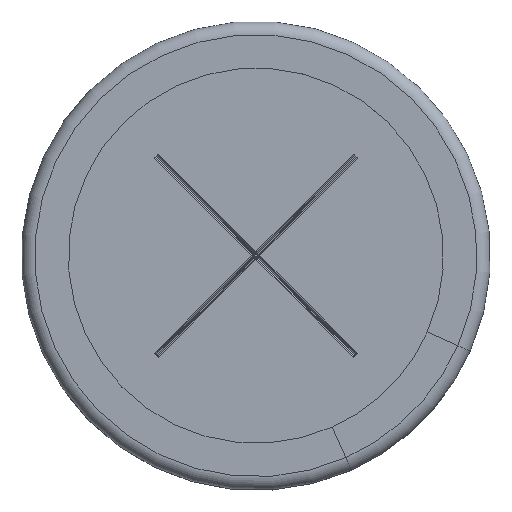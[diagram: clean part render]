
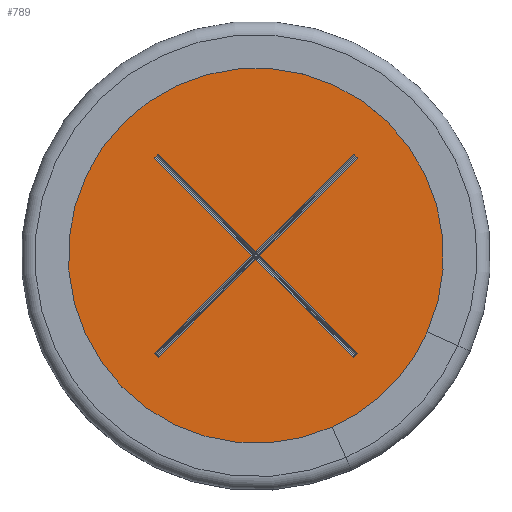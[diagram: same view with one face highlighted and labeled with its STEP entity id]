
A CAD part, top view. The second image highlights one B-rep face of the part: STEP entity #789.
In plain terms, the highlighted planar face has unit normal (0, 0, 1).
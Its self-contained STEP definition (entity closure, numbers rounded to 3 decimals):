
#174=FACE_BOUND('',#1270,.T.);
#175=FACE_BOUND('',#1271,.T.);
#673=PLANE('',#4033);
#789=ADVANCED_FACE('',(#174,#175),#673,.T.);
#1270=EDGE_LOOP('',(#2116));
#1271=EDGE_LOOP('',(#2117,#2118,#2119,#2120,#2121,#2122,#2123,#2124,#2125,
#2126,#2127,#2128));
#1503=LINE('',#5696,#1757);
#1504=LINE('',#5699,#1758);
#1505=LINE('',#5701,#1759);
#1506=LINE('',#5703,#1760);
#1507=LINE('',#5705,#1761);
#1508=LINE('',#5707,#1762);
#1509=LINE('',#5709,#1763);
#1510=LINE('',#5711,#1764);
#1511=LINE('',#5713,#1765);
#1512=LINE('',#5715,#1766);
#1513=LINE('',#5717,#1767);
#1514=LINE('',#5719,#1768);
#1757=VECTOR('',#4576,1.);
#1758=VECTOR('',#4577,1.);
#1759=VECTOR('',#4578,1.);
#1760=VECTOR('',#4579,1.);
#1761=VECTOR('',#4580,1.);
#1762=VECTOR('',#4581,1.);
#1763=VECTOR('',#4582,1.);
#1764=VECTOR('',#4583,1.);
#1765=VECTOR('',#4584,1.);
#1766=VECTOR('',#4585,1.);
#1767=VECTOR('',#4586,1.);
#1768=VECTOR('',#4587,1.);
#2116=ORIENTED_EDGE('',*,*,#3354,.F.);
#2117=ORIENTED_EDGE('',*,*,#3355,.T.);
#2118=ORIENTED_EDGE('',*,*,#3356,.T.);
#2119=ORIENTED_EDGE('',*,*,#3357,.T.);
#2120=ORIENTED_EDGE('',*,*,#3358,.F.);
#2121=ORIENTED_EDGE('',*,*,#3359,.T.);
#2122=ORIENTED_EDGE('',*,*,#3360,.T.);
#2123=ORIENTED_EDGE('',*,*,#3361,.F.);
#2124=ORIENTED_EDGE('',*,*,#3362,.T.);
#2125=ORIENTED_EDGE('',*,*,#3363,.T.);
#2126=ORIENTED_EDGE('',*,*,#3364,.T.);
#2127=ORIENTED_EDGE('',*,*,#3365,.T.);
#2128=ORIENTED_EDGE('',*,*,#3366,.T.);
#3024=VERTEX_POINT('',#5695);
#3025=VERTEX_POINT('',#5697);
#3026=VERTEX_POINT('',#5698);
#3027=VERTEX_POINT('',#5700);
#3028=VERTEX_POINT('',#5702);
#3029=VERTEX_POINT('',#5704);
#3030=VERTEX_POINT('',#5706);
#3031=VERTEX_POINT('',#5708);
#3032=VERTEX_POINT('',#5710);
#3033=VERTEX_POINT('',#5712);
#3034=VERTEX_POINT('',#5714);
#3035=VERTEX_POINT('',#5716);
#3036=VERTEX_POINT('',#5718);
#3354=EDGE_CURVE('',#3024,#3024,#3812,.T.);
#3355=EDGE_CURVE('',#3025,#3026,#1503,.T.);
#3356=EDGE_CURVE('',#3026,#3027,#1504,.T.);
#3357=EDGE_CURVE('',#3027,#3028,#1505,.T.);
#3358=EDGE_CURVE('',#3029,#3028,#1506,.T.);
#3359=EDGE_CURVE('',#3029,#3030,#1507,.T.);
#3360=EDGE_CURVE('',#3030,#3031,#1508,.T.);
#3361=EDGE_CURVE('',#3032,#3031,#1509,.T.);
#3362=EDGE_CURVE('',#3032,#3033,#1510,.T.);
#3363=EDGE_CURVE('',#3033,#3034,#1511,.T.);
#3364=EDGE_CURVE('',#3034,#3035,#1512,.T.);
#3365=EDGE_CURVE('',#3035,#3036,#1513,.T.);
#3366=EDGE_CURVE('',#3036,#3025,#1514,.T.);
#3812=CIRCLE('',#4032,16.5);
#4032=AXIS2_PLACEMENT_3D('',#5694,#4574,#4575);
#4033=AXIS2_PLACEMENT_3D('',#5720,#4588,#4589);
#4574=DIRECTION('',(0.,0.,-1.));
#4575=DIRECTION('',(-1.,0.,0.));
#4576=DIRECTION('',(0.707,-0.707,0.));
#4577=DIRECTION('',(-0.707,-0.707,0.));
#4578=DIRECTION('',(0.707,-0.707,0.));
#4579=DIRECTION('',(0.707,0.707,0.));
#4580=DIRECTION('',(-0.707,0.707,0.));
#4581=DIRECTION('',(-0.707,-0.707,0.));
#4582=DIRECTION('',(0.707,-0.707,0.));
#4583=DIRECTION('',(0.707,0.707,0.));
#4584=DIRECTION('',(-0.707,0.707,0.));
#4585=DIRECTION('',(0.707,0.707,0.));
#4586=DIRECTION('',(0.707,-0.707,0.));
#4587=DIRECTION('',(0.707,0.707,0.));
#4588=DIRECTION('',(0.,0.,1.));
#4589=DIRECTION('',(1.,0.,0.));
#5694=CARTESIAN_POINT('',(0.,0.,19.8));
#5695=CARTESIAN_POINT('',(-16.5,0.,19.8));
#5696=CARTESIAN_POINT('',(7.319,7.531,19.8));
#5697=CARTESIAN_POINT('',(7.275,7.574,19.8));
#5698=CARTESIAN_POINT('',(7.574,7.275,19.8));
#5699=CARTESIAN_POINT('',(-8.1,-8.4,19.8));
#5700=CARTESIAN_POINT('',(0.3,0.,19.8));
#5701=CARTESIAN_POINT('',(-8.1,8.4,19.8));
#5702=CARTESIAN_POINT('',(7.574,-7.275,19.8));
#5703=CARTESIAN_POINT('',(7.531,-7.319,19.8));
#5704=CARTESIAN_POINT('',(7.275,-7.574,19.8));
#5705=CARTESIAN_POINT('',(-8.4,8.1,19.8));
#5706=CARTESIAN_POINT('',(0.,-0.3,19.8));
#5707=CARTESIAN_POINT('',(-8.1,-8.4,19.8));
#5708=CARTESIAN_POINT('',(-7.275,-7.574,19.8));
#5709=CARTESIAN_POINT('',(-7.531,-7.319,19.8));
#5710=CARTESIAN_POINT('',(-7.574,-7.275,19.8));
#5711=CARTESIAN_POINT('',(-8.4,-8.1,19.8));
#5712=CARTESIAN_POINT('',(-0.3,0.,19.8));
#5713=CARTESIAN_POINT('',(-8.4,8.1,19.8));
#5714=CARTESIAN_POINT('',(-7.574,7.275,19.8));
#5715=CARTESIAN_POINT('',(-7.319,7.531,19.8));
#5716=CARTESIAN_POINT('',(-7.275,7.574,19.8));
#5717=CARTESIAN_POINT('',(-8.1,8.4,19.8));
#5718=CARTESIAN_POINT('',(0.,0.3,19.8));
#5719=CARTESIAN_POINT('',(-8.4,-8.1,19.8));
#5720=CARTESIAN_POINT('',(-16.5,0.,19.8));
